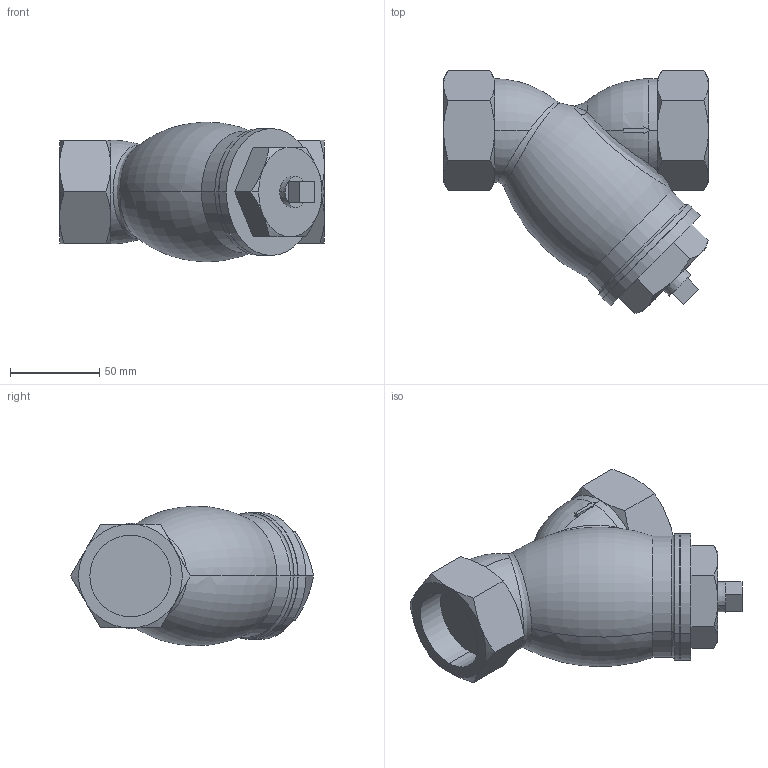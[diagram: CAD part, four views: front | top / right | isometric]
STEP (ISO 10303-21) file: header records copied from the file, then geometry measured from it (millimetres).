
FILE_DESCRIPTION (( 'STEP AP203' ), '1' );
FILE_NAME ('SY-6 40A.STEP', '2026-05-18T01:51:54', ( '' ), ( '' ), 'SwSTEP 2.0', 'SolidWorks 2026', '' );
FILE_SCHEMA (( 'CONFIG_CONTROL_DESIGN' ));
Length unit declared in the file: millimetre
Products named in the file (1): SY-6 40A
Bounding box: 148 x 135.76 x 77.81 mm (x, y, z)
Volume: 642228.7 mm3; surface area: 57884.7 mm2
Topology: 1 solids, 1 shells, 111 faces, 260 edges, 158 vertices
Faces by surface type: plane 48, cone 32, cylinder 15, torus 11, bspline 5
Entity records: 4761 total; most frequent: CARTESIAN_POINT 2298, ORIENTED_EDGE 520, DIRECTION 463, EDGE_CURVE 260, AXIS2_PLACEMENT_3D 191, VERTEX_POINT 158, EDGE_LOOP 118, ADVANCED_FACE 111
